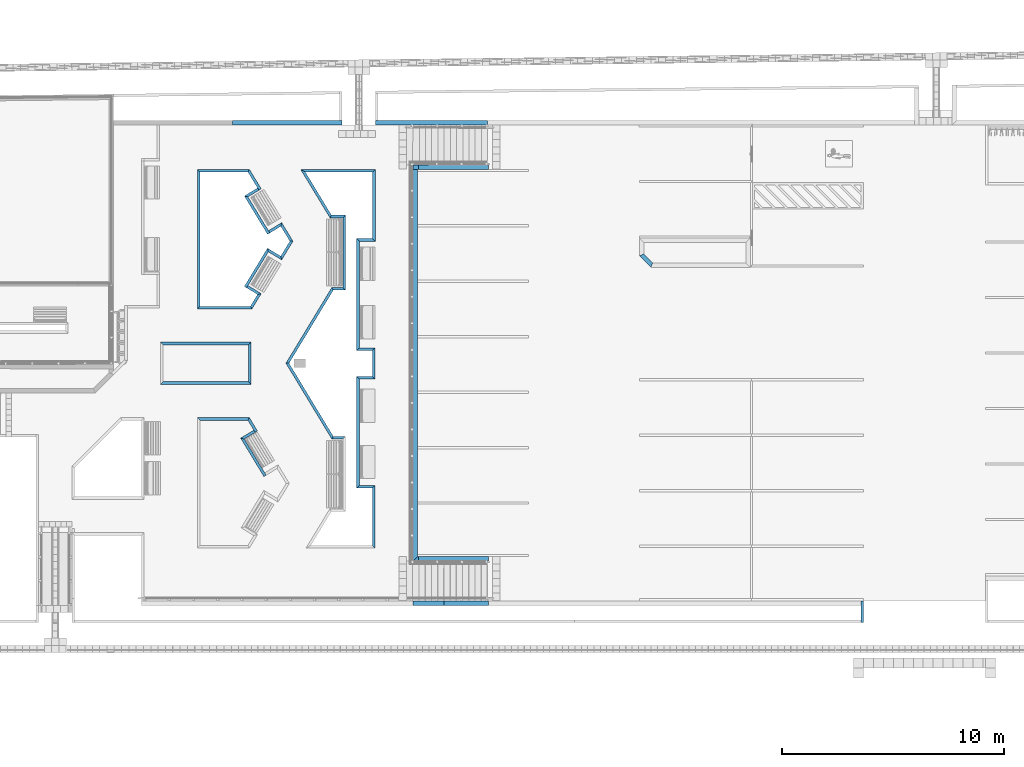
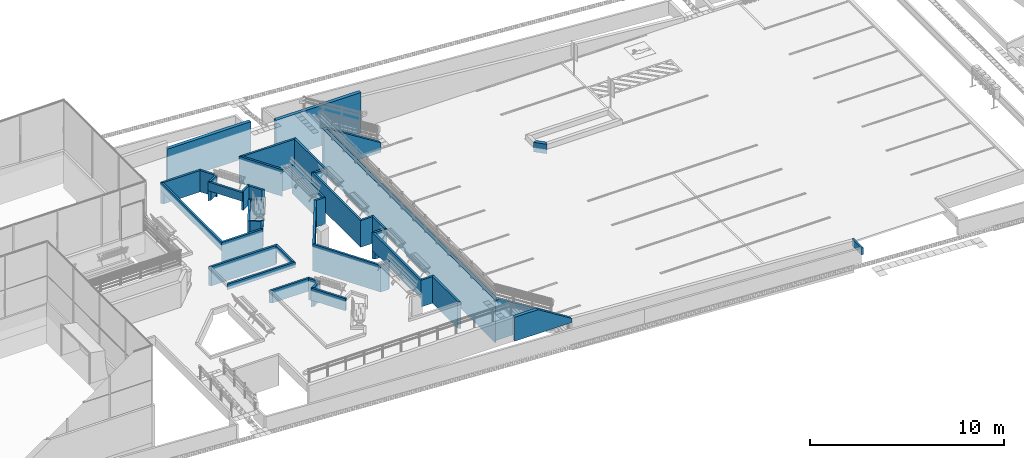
# One storey, part 19 of 237: 45 walls.
"""IFC2X3 building model written with IfcOpenShell, lengths in millimetres."""

import ifcopenshell
import ifcopenshell.guid

model = None  # the IFC model being written
_history = None  # IfcOwnerHistory: only IFC2X3 demands one
_inside = {}  # id of a spatial element -> (the spatial element, [elements in it])
_under = {}  # id of a project, library or spatial element -> (it, [spatial elements below it])
_declared = {}  # id of a project -> (the project, [libraries it declares])
_typed = {}  # id of a type object -> (the type object, [elements of that type])
_made_of = {}  # id of a material, layer set ... -> (it, [elements and type objects made of it])


def new_model(schema):
    """Start an empty IFC model of exactly this schema.

    Asked for "IFC4X3", IfcOpenShell would pick the latest addendum, in which some entities
    have other attributes; the version numbers below select the first issue.
    IFC2X3 requires an IfcOwnerHistory on every rooted entity: one is made here for all.
    """
    global model, _history
    if schema == "IFC4X3":
        model = ifcopenshell.file(schema_version=(4, 3, 0, 0))
    else:
        model = ifcopenshell.file(schema=schema)
    _inside.clear()
    _under.clear()
    _declared.clear()
    _typed.clear()
    _made_of.clear()
    _history = None
    if model.schema == "IFC2X3":
        org = make("IfcOrganization", Name="unknown")
        user = make(
            "IfcPersonAndOrganization",
            ThePerson=make("IfcPerson", FamilyName="unknown"),
            TheOrganization=org,
        )
        app = make(
            "IfcApplication",
            ApplicationDeveloper=org,
            Version="unknown",
            ApplicationFullName="unknown",
            ApplicationIdentifier="unknown",
        )
        _history = make(
            "IfcOwnerHistory",
            OwningUser=user,
            OwningApplication=app,
            ChangeAction="ADDED",
            CreationDate=0,
        )
    return model


def make(cls, **values):
    """One entity of the class cls with the attributes given. An attribute that is None is left unset."""
    return model.create_entity(
        cls, **{name: value for name, value in values.items() if value is not None}
    )


def entity(cls, *values):
    """Any entity or typed value of the class cls, its attributes in the order of the schema. None: left unset."""
    e = model.create_entity(cls)
    for i, value in enumerate(values):
        if value is not None:
            e[i] = value
    return e


def rooted(cls, **values):
    """An entity with a GlobalId (a new one), such as an element, a storey or a relation."""
    return make(cls, GlobalId=ifcopenshell.guid.new(), OwnerHistory=_history, **values)


def si_unit(unit_type, name, prefix=None):
    """IfcSIUnit, for example si_unit("LENGTHUNIT", "METRE", prefix="MILLI")."""
    return make("IfcSIUnit", UnitType=unit_type, Prefix=prefix, Name=name)


def converted_unit(unit_type, name, factor, base, dimensions=None, offset=None):
    """IfcConversionBasedUnit, such as the inch: factor (a typed value) times the base unit."""
    return make(
        "IfcConversionBasedUnit"
        if offset is None
        else "IfcConversionBasedUnitWithOffset",
        ConversionOffset=offset,
        Dimensions=None
        if dimensions is None
        else entity("IfcDimensionalExponents", *dimensions),
        UnitType=unit_type,
        Name=name,
        ConversionFactor=make(
            "IfcMeasureWithUnit", ValueComponent=factor, UnitComponent=base
        ),
    )


def derived_unit(unit_type, elements):
    """IfcDerivedUnit: a product of units, each with its exponent."""
    return make(
        "IfcDerivedUnit",
        Elements=[
            make("IfcDerivedUnitElement", Unit=unit, Exponent=power)
            for unit, power in elements
        ],
        UnitType=unit_type,
    )


def money_unit(currency):
    """IfcMonetaryUnit."""
    return make("IfcMonetaryUnit", Currency=currency)


def assignment(units):
    """IfcUnitAssignment: the units of a project."""
    return None if units is None else make("IfcUnitAssignment", Units=units)


def point(xyz):
    """IfcCartesianPoint."""
    return None if xyz is None else make("IfcCartesianPoint", Coordinates=xyz)


def direction(xyz):
    """IfcDirection."""
    return None if xyz is None else make("IfcDirection", DirectionRatios=xyz)


def frame(location, z_axis=None, x_axis=None):
    """IfcAxis2Placement3D, a coordinate frame: its origin and axes. An axis left out is left unset."""
    return make(
        "IfcAxis2Placement3D",
        Location=point(location),
        Axis=direction(z_axis),
        RefDirection=direction(x_axis),
    )


def origin_with_axes():
    """The frame at (0, 0, 0) with the z axis (0, 0, 1) and the x axis (1, 0, 0) written out."""
    return frame((0.0, 0.0, 0.0), z_axis=(0.0, 0.0, 1.0), x_axis=(1.0, 0.0, 0.0))


def place(relative_to, where):
    """IfcLocalPlacement: puts the frame where relative to a parent placement (None: the world)."""
    return make(
        "IfcLocalPlacement", PlacementRelTo=relative_to, RelativePlacement=where
    )


def context(
    kind, dimensions, precision=None, world=None, true_north=None, identifier=None
):
    """IfcGeometricRepresentationContext, for example the 3D "Model" context."""
    return make(
        "IfcGeometricRepresentationContext",
        ContextIdentifier=identifier,
        ContextType=kind,
        CoordinateSpaceDimension=dimensions,
        Precision=precision,
        WorldCoordinateSystem=world,
        TrueNorth=true_north,
    )


def subcontext(parent, identifier, kind, view, scale=None):
    """IfcGeometricRepresentationSubContext, for example "Body" below "Model"."""
    return make(
        "IfcGeometricRepresentationSubContext",
        ContextIdentifier=identifier,
        ContextType=kind,
        ParentContext=parent,
        TargetScale=scale,
        TargetView=view,
    )


def project(units=None, contexts=None):
    """IfcProject with its units and contexts."""
    return rooted(
        "IfcProject",
        Name="project",
        RepresentationContexts=contexts,
        UnitsInContext=assignment(units),
    )


def spatial(cls, under=None, at=None, **own):
    """A site, building, storey or space (cls), placed at a placement, below another one or the project."""
    s = rooted(cls, ObjectPlacement=at, **own)
    if under is not None:
        _under.setdefault(under.id(), (under, []))[1].append(s)
    return s


def polyline(points):
    """IfcPolyline through the points."""
    return make("IfcPolyline", Points=[point(p) for p in points])


def outline(outer, holes=None, kind="AREA"):
    """IfcArbitraryClosedProfileDef: a profile drawn as a closed curve; with holes, ...WithVoids."""
    if holes is None:
        return make("IfcArbitraryClosedProfileDef", ProfileType=kind, OuterCurve=outer)
    return make(
        "IfcArbitraryProfileDefWithVoids",
        ProfileType=kind,
        OuterCurve=outer,
        InnerCurves=holes,
    )


def extrude(swept, where, along, depth):
    """IfcExtrudedAreaSolid: the profile swept, set in the frame where, extruded along a direction by depth."""
    return make(
        "IfcExtrudedAreaSolid",
        SweptArea=swept,
        Position=where,
        ExtrudedDirection=direction(along),
        Depth=depth,
    )


def clip(a, b, op="DIFFERENCE"):
    """IfcBooleanClippingResult: the solid a cut by the half space b."""
    return make(
        "IfcBooleanClippingResult", Operator=op, FirstOperand=a, SecondOperand=b
    )


def halfspace(plane, agree):
    """IfcHalfSpaceSolid: all space on one side of the plane z = 0 of the frame plane."""
    return make(
        "IfcHalfSpaceSolid",
        BaseSurface=make("IfcPlane", Position=plane),
        AgreementFlag=agree,
    )


def bounded_halfspace(plane, agree, where, boundary):
    """IfcPolygonalBoundedHalfSpace: a half space limited to a polygon's prism."""
    return make(
        "IfcPolygonalBoundedHalfSpace",
        BaseSurface=make("IfcPlane", Position=plane),
        AgreementFlag=agree,
        Position=where,
        PolygonalBoundary=boundary,
    )


def shape(context_of_items, identifier, shape_type, items):
    """IfcShapeRepresentation: the items that make up one representation, for example the "Body"."""
    return make(
        "IfcShapeRepresentation",
        ContextOfItems=context_of_items,
        RepresentationIdentifier=identifier,
        RepresentationType=shape_type,
        Items=items,
    )


def material(Name=None, Category=None):
    """IfcMaterial."""
    return make("IfcMaterial", Name=Name, Category=Category)


def layer(
    of_material, thickness, ventilated=None, Name=None, Category=None, Priority=None
):
    """IfcMaterialLayer: one layer of a wall or slab, of a material (None: an air gap)."""
    return make(
        "IfcMaterialLayer",
        Material=of_material,
        LayerThickness=thickness,
        IsVentilated=ventilated,
        Name=Name,
        Category=Category,
        Priority=Priority,
    )


def layer_set(layers, Name=None):
    """IfcMaterialLayerSet."""
    return make("IfcMaterialLayerSet", MaterialLayers=layers, LayerSetName=Name)


def layer_usage(for_layer_set, set_direction, sense, offset, extent=None):
    """IfcMaterialLayerSetUsage: how a layer set lies in its element."""
    return make(
        "IfcMaterialLayerSetUsage",
        ForLayerSet=for_layer_set,
        LayerSetDirection=set_direction,
        DirectionSense=sense,
        OffsetFromReferenceLine=offset,
        ReferenceExtent=extent,
    )


def made_of(thing, what):
    """Note that an element or type object is made of a material, layer set ...; save() writes the relation."""
    if what is not None:
        _made_of.setdefault(what.id(), (what, []))[1].append(thing)
    return thing


def type_object(cls, material=None, **own):
    """A type object (cls), such as IfcWallType, which elements share."""
    return made_of(rooted(cls, **own), material)


def element(
    cls,
    number,
    at=None,
    inside=None,
    cuts=None,
    type_object=None,
    material=None,
    context=None,
    identifier="Body",
    shape_type=None,
    held_by="IfcProductDefinitionShape",
    body=None,
    shapes=None,
    **own,
):
    """One element of the class cls, such as IfcWall. Its Tag is "e" and its number.

    at: its placement. inside: the storey or other place that contains it. cuts: it is an
    opening in that element (IfcRelVoidsElement). A single representation is given by context,
    identifier, shape_type and body (its items); several are given by shapes. held_by: the class
    of the entity that holds the representations. save() writes the other relations.
    """
    e = rooted(cls, Tag="e%d" % number, ObjectPlacement=at, **own)
    if body is not None:
        shapes = [shape(context, identifier, shape_type, body)]
    if shapes is not None:
        e.Representation = make(held_by, Representations=shapes)
    if inside is not None:
        _inside.setdefault(inside.id(), (inside, []))[1].append(e)
    if cuts is not None:
        rooted(
            "IfcRelVoidsElement", RelatingBuildingElement=cuts, RelatedOpeningElement=e
        )
    if type_object is not None:
        _typed.setdefault(type_object.id(), (type_object, []))[1].append(e)
    return made_of(e, material)


def aggregate(whole, parts):
    """IfcRelAggregates: a whole, such as a stair, and the parts it consists of."""
    return rooted("IfcRelAggregates", RelatingObject=whole, RelatedObjects=parts)


def save(model, path):
    """Write the relations noted so far, then the file.

    IfcRelAggregates (storeys below a building ...), IfcRelContainedInSpatialStructure (elements
    in a storey), IfcRelDefinesByType, IfcRelAssociatesMaterial and IfcRelDeclares: one each for
    every whole, place, type object, material and project.
    """
    for whole, parts in _under.values():
        aggregate(whole, parts)
    for where, things in _inside.values():
        rooted(
            "IfcRelContainedInSpatialStructure",
            RelatedElements=things,
            RelatingStructure=where,
        )
    for kind, things in _typed.values():
        rooted("IfcRelDefinesByType", RelatedObjects=things, RelatingType=kind)
    for what, things in _made_of.values():
        rooted("IfcRelAssociatesMaterial", RelatedObjects=things, RelatingMaterial=what)
    for by, libraries in _declared.values():
        rooted("IfcRelDeclares", RelatingContext=by, RelatedDefinitions=libraries)
    model.write(path)


model = new_model("IFC2X3")

# Units and contexts
model_context = context("Model", 3, precision=0.01, world=origin_with_axes(), true_north=direction((0.0, 1.0)))
body_context = subcontext(model_context, "Body", "Model", "MODEL_VIEW")
ifc_project = project(units=[si_unit("LENGTHUNIT", "METRE", prefix="MILLI"), si_unit("AREAUNIT", "SQUARE_METRE"), si_unit("VOLUMEUNIT", "CUBIC_METRE"), converted_unit("PLANEANGLEUNIT", "DEGREE", entity("IfcPlaneAngleMeasure", 0.0174532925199), si_unit("PLANEANGLEUNIT", "RADIAN"), dimensions=[0, 0, 0, 0, 0, 0, 0]), money_unit("USD"), converted_unit("TIMEUNIT", "Year", entity("IfcTimeMeasure", 31556926.0), si_unit("TIMEUNIT", "SECOND"), dimensions=[0, 0, 1, 0, 0, 0, 0]), si_unit("MASSUNIT", "GRAM", prefix="KILO"), si_unit("THERMODYNAMICTEMPERATUREUNIT", "DEGREE_CELSIUS"), si_unit("LUMINOUSINTENSITYUNIT", "LUMEN"), si_unit("ENERGYUNIT", "JOULE", prefix="MEGA"), derived_unit("THERMALCONDUCTANCEUNIT", [(si_unit("POWERUNIT", "WATT"), 1), (si_unit("LENGTHUNIT", "METRE"), -1), (si_unit("THERMODYNAMICTEMPERATUREUNIT", "KELVIN"), -1)]), derived_unit("SPECIFICHEATCAPACITYUNIT", [(si_unit("ENERGYUNIT", "JOULE"), 1), (si_unit("MASSUNIT", "GRAM", prefix="KILO"), -1), (si_unit("THERMODYNAMICTEMPERATUREUNIT", "KELVIN"), -1)]), derived_unit("MASSDENSITYUNIT", [(si_unit("MASSUNIT", "GRAM", prefix="KILO"), 1), (si_unit("VOLUMEUNIT", "CUBIC_METRE"), -1)])], contexts=[model_context])

# Site, building, storey
site_placement = place(None, origin_with_axes())
site = spatial("IfcSite", under=ifc_project, at=site_placement, Name="Local", CompositionType="ELEMENT")
building_placement = place(site_placement, origin_with_axes())
building = spatial("IfcBuilding", under=site, at=building_placement, Name="Construção", CompositionType="ELEMENT")
storey_placement = place(building_placement, origin_with_axes())
storey = spatial("IfcBuildingStorey", under=building, at=storey_placement, Name="Pavimento Térreo", CompositionType="ELEMENT", Elevation=0.0)

# Walls
ifc_material = material(Name="Bloco de Concreto - Estrutural")
ifc_layer_1 = layer(ifc_material, 120.0, ventilated="UNKNOWN")
ifc_layer_set_1 = layer_set([ifc_layer_1], Name="Bloco de Concreto - Estrutural 120")
ifc_layer_usage_1 = layer_usage(ifc_layer_set_1, "AXIS2", "NEGATIVE", 0.0)
wall_type_1 = type_object("IfcWallType", Name="Bloco de Concreto - Estrutural 120", PredefinedType="NOTDEFINED")
wall_1_placement = place(storey_placement, frame((94852.3907283, 29208.0562672, -6187.39424695), z_axis=(0.0, 0.0, 1.0), x_axis=(-0.518296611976, -0.855200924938, 0.0)))
element("IfcWallStandardCase", 1, at=wall_1_placement, inside=storey, type_object=wall_type_1, material=ifc_layer_usage_1, Name="Parede-081", context=body_context, shape_type="SweptSolid", body=[
    extrude(outline(polyline([(72.7262934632, -120.0), (864.691435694, -120.0), (984.691435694, 0.0), (0.0, 0.0), (72.7262934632, -120.0)])), origin_with_axes(), (0.0, 0.0, 1.0), 1345.0864139),
])
ifc_layer_usage_2 = layer_usage(ifc_layer_set_1, "AXIS2", "NEGATIVE", 0.0)
wall_2_placement = place(storey_placement, frame((92956.0936815, 22756.5427792, -5181.0), z_axis=(0.0, 0.0, 1.0), x_axis=(-1.0, 0.0, 0.0)))
element("IfcWallStandardCase", 2, at=wall_2_placement, inside=storey, type_object=wall_type_1, material=ifc_layer_usage_2, Name="Parede-087", context=body_context, shape_type="SweptSolid", body=[
    extrude(outline(polyline([(120.0, -120.0), (3953.20247605, -120.0), (4073.20247605, 0.0), (0.0, 0.0), (120.0, -120.0)])), origin_with_axes(), (0.0, 0.0, 1.0), 340.0),
])
ifc_layer_usage_3 = layer_usage(ifc_layer_set_1, "AXIS2", "NEGATIVE", 0.0)
wall_3_placement = place(storey_placement, frame((92823.3112806, 27210.6080946, -6038.27348767), z_axis=(0.0, 0.0, 1.0), x_axis=(0.855200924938, -0.518296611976, 0.0)))
element("IfcWallStandardCase", 3, at=wall_3_placement, inside=storey, type_object=wall_type_1, material=ifc_layer_usage_3, Name="Parede-085", context=body_context, shape_type="SweptSolid", body=[
    extrude(outline(polyline([(0.0, -120.0), (580.0, -120.0), (700.0, 0.0), (0.0, 0.0), (0.0, -120.0)])), origin_with_axes(), (0.0, 0.0, 1.0), 1197.27348767),
])
ifc_layer_usage_4 = layer_usage(ifc_layer_set_1, "AXIS2", "NEGATIVE", 0.0)
wall_4_placement = place(storey_placement, frame((92959.4676312, 21136.5610382, -5641.13192024), z_axis=(0.0, 0.0, 1.0), x_axis=(-1.0, 0.0, 0.0)))
element("IfcWallStandardCase", 4, at=wall_4_placement, inside=storey, type_object=wall_type_1, material=ifc_layer_usage_4, Name="Parede-081", context=body_context, shape_type="SweptSolid", body=[
    extrude(outline(polyline([(72.7262934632, -120.0), (2422.70385231, -120.0), (2302.70431037, 0.0), (140.317902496, 0.0), (72.7262934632, -120.0)])), origin_with_axes(), (0.0, 0.0, 1.0), 798.824087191),
])
ifc_layer_usage_5 = layer_usage(ifc_layer_set_1, "AXIS2", "NEGATIVE", 0.0)
wall_5_placement = place(storey_placement, frame((97845.4255213, 23118.5676803, -5971.10117502), z_axis=(0.0, 0.0, 1.0), x_axis=(0.0, -1.0, 0.0)))
element("IfcWallStandardCase", 5, at=wall_5_placement, inside=storey, type_object=wall_type_1, material=ifc_layer_usage_5, Name="Parede-081", context=body_context, shape_type="SweptSolid", body=[
    extrude(outline(polyline([(0.0, -120.0), (5036.17018932, -120.0), (4916.17018932, 0.0), (120.0, 0.0), (0.0, -120.0)])), origin_with_axes(), (0.0, 0.0, 1.0), 1130.98041574),
])
ifc_layer_usage_6 = layer_usage(ifc_layer_set_1, "AXIS2", "NEGATIVE", 0.0)
wall_6_placement = place(storey_placement, frame((92959.4676312, 32331.4214332, -6187.39424695), z_axis=(0.0, 0.0, 1.0), x_axis=(0.518296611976, -0.855200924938, 0.0)))
element("IfcWallStandardCase", 6, at=wall_6_placement, inside=storey, type_object=wall_type_1, material=ifc_layer_usage_6, Name="Parede-081", context=body_context, shape_type="SweptSolid", body=[
    extrude(outline(polyline([(-72.7262934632, -120.0), (892.507136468, -120.0), (892.507136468, 0.0), (-140.317902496, 0.0), (-72.7262934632, -120.0)])), origin_with_axes(), (0.0, 0.0, 1.0), 1345.0864139),
])
ifc_layer_usage_7 = layer_usage(ifc_layer_set_1, "AXIS2", "NEGATIVE", 0.0)
wall_7_placement = place(storey_placement, frame((98545.4255213, 18202.397491, -6517.39424695), z_axis=(0.0, 0.0, 1.0), x_axis=(0.0, -1.0, 0.0)))
element("IfcWallStandardCase", 7, at=wall_7_placement, inside=storey, type_object=wall_type_1, material=ifc_layer_usage_7, Name="Parede-083", context=body_context, shape_type="SweptSolid", body=[
    extrude(outline(polyline([(120.0, -120.0), (2704.80480075, -120.0), (2824.80480075, 0.0), (0.0, 0.0), (120.0, -120.0)])), origin_with_axes(), (0.0, 0.0, 1.0), 1677.27348767),
])
ifc_layer_usage_8 = layer_usage(ifc_layer_set_1, "AXIS2", "NEGATIVE", 0.0)
wall_8_placement = place(storey_placement, frame((97845.4255213, 18202.397491, -6517.39424695), z_axis=(0.0, 0.0, 1.0), x_axis=(1.0, 0.0, 0.0)))
element("IfcWallStandardCase", 8, at=wall_8_placement, inside=storey, type_object=wall_type_1, material=ifc_layer_usage_8, Name="Parede-082", context=body_context, shape_type="SweptSolid", body=[
    extrude(outline(polyline([(-120.0, -120.0), (580.0, -120.0), (700.0, 0.0), (0.0, 0.0), (-120.0, -120.0)])), origin_with_axes(), (0.0, 0.0, 1.0), 1677.27348767),
])
ifc_layer_usage_9 = layer_usage(ifc_layer_set_1, "AXIS2", "NEGATIVE", 0.0)
wall_9_placement = place(storey_placement, frame((93421.951928, 26847.8004662, -6187.39424695), z_axis=(0.0, 0.0, 1.0), x_axis=(-0.518296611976, -0.855200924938, 0.0)))
element("IfcWallStandardCase", 9, at=wall_9_placement, inside=storey, type_object=wall_type_1, material=ifc_layer_usage_9, Name="Parede-081", context=body_context, shape_type="SweptSolid", body=[
    extrude(outline(polyline([(120.0, -120.0), (741.908569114, -120.0), (809.500178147, 0.0), (0.0, 0.0), (120.0, -120.0)])), origin_with_axes(), (0.0, 0.0, 1.0), 1345.0864139),
])
ifc_layer_usage_10 = layer_usage(ifc_layer_set_1, "AXIS2", "NEGATIVE", 0.0)
wall_10_placement = place(storey_placement, frame((97845.4255213, 23118.5676803, -6517.39424695), z_axis=(0.0, 0.0, 1.0), x_axis=(1.0, 0.0, 0.0)))
element("IfcWallStandardCase", 10, at=wall_10_placement, inside=storey, type_object=wall_type_1, material=ifc_layer_usage_10, Name="Parede-082", context=body_context, shape_type="SweptSolid", body=[
    extrude(outline(polyline([(0.0, -120.0), (700.0, -120.0), (580.0, 0.0), (-120.0, 0.0), (0.0, -120.0)])), origin_with_axes(), (0.0, 0.0, 1.0), 1677.27348767),
])
ifc_layer_usage_11 = layer_usage(ifc_layer_set_1, "AXIS2", "NEGATIVE", 0.0)
wall_11_placement = place(storey_placement, frame((92593.024435, 20394.4434864, -5606.99141897), z_axis=(0.0, 0.0, 1.0), x_axis=(0.518296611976, -0.855200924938, 0.0)))
element("IfcWallStandardCase", 11, at=wall_11_placement, inside=storey, type_object=wall_type_1, material=ifc_layer_usage_11, Name="Parede-081", context=body_context, shape_type="SweptSolid", body=[
    extrude(outline(polyline([(0.0, -120.0), (2024.59585967, -120.0), (2024.59585967, 0.0), (120.0, 0.0), (0.0, -120.0)])), origin_with_axes(), (0.0, 0.0, 1.0), 764.683585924),
])
ifc_layer_usage_12 = layer_usage(ifc_layer_set_1, "AXIS2", "NEGATIVE", 0.0)
wall_12_placement = place(storey_placement, frame((93805.5834393, 28831.37898, -6038.27348767), z_axis=(0.0, 0.0, 1.0), x_axis=(0.855200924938, -0.518296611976, 0.0)))
element("IfcWallStandardCase", 12, at=wall_12_placement, inside=storey, type_object=wall_type_1, material=ifc_layer_usage_12, Name="Parede-085", context=body_context, shape_type="SweptSolid", body=[
    extrude(outline(polyline([(0.0, -120.0), (700.0, -120.0), (580.0, 0.0), (-120.0, 0.0), (0.0, -120.0)])), origin_with_axes(), (0.0, 0.0, 1.0), 1197.27348767),
])
ifc_layer_usage_13 = layer_usage(ifc_layer_set_1, "AXIS2", "NEGATIVE", 0.0)
wall_13_placement = place(storey_placement, frame((92959.4676312, 32331.4214332, -6187.39424695), z_axis=(0.0, 0.0, 1.0), x_axis=(-1.0, 0.0, 0.0)))
element("IfcWallStandardCase", 13, at=wall_13_placement, inside=storey, type_object=wall_type_1, material=ifc_layer_usage_13, Name="Parede-081", context=body_context, shape_type="SweptSolid", body=[
    extrude(outline(polyline([(72.7262934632, -120.0), (2422.70204263, -120.0), (2302.70246977, 0.0), (140.317902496, 0.0), (72.7262934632, -120.0)])), origin_with_axes(), (0.0, 0.0, 1.0), 1345.0864139),
])
ifc_layer_usage_14 = layer_usage(ifc_layer_set_1, "AXIS2", "NEGATIVE", 0.0)
wall_14_placement = place(storey_placement, frame((98545.4255213, 24403.3453964, -6517.39424695), z_axis=(0.0, 0.0, 1.0), x_axis=(0.0, -1.0, 0.0)))
element("IfcWallStandardCase", 14, at=wall_14_placement, inside=storey, type_object=wall_type_1, material=ifc_layer_usage_14, Name="Parede-100", context=body_context, shape_type="SweptSolid", body=[
    extrude(outline(polyline([(120.0, -120.0), (1284.77771604, -120.0), (1404.77771604, 0.0), (0.0, 0.0), (120.0, -120.0)])), origin_with_axes(), (0.0, 0.0, 1.0), 1677.27348767),
])
ifc_layer_usage_15 = layer_usage(ifc_layer_set_1, "AXIS2", "NEGATIVE", 0.0)
wall_15_placement = place(storey_placement, frame((97842.9647938, 24403.3453964, -6517.39424695), z_axis=(0.0, 0.0, 1.0), x_axis=(1.0, 0.0, 0.0)))
element("IfcWallStandardCase", 15, at=wall_15_placement, inside=storey, type_object=wall_type_1, material=ifc_layer_usage_15, Name="Parede-099", context=body_context, shape_type="SweptSolid", body=[
    extrude(outline(polyline([(-120.061479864, -120.0), (582.460727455, -120.0), (702.460727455, 0.0), (0.0, 0.0), (-120.061479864, -120.0)])), origin_with_axes(), (0.0, 0.0, 1.0), 1677.27348767),
])
ifc_layer_usage_16 = layer_usage(ifc_layer_set_1, "AXIS2", "NEGATIVE", 0.0)
wall_16_placement = place(storey_placement, frame((97845.4223733, 29201.4214342, -6517.39424695), z_axis=(0.0, 0.0, 1.0), x_axis=(-0.000512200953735, -0.999999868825, 0.0)))
element("IfcWallStandardCase", 16, at=wall_16_placement, inside=storey, type_object=wall_type_1, material=ifc_layer_usage_16, Name="Parede-098", context=body_context, shape_type="SweptSolid", body=[
    extrude(outline(polyline([(-119.938551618, -120.0), (4918.13814712, -120.0), (4798.07666726, 0.0), (0.0, 0.0), (-119.938551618, -120.0)])), origin_with_axes(), (0.0, 0.0, 1.0), 1677.27348767),
])
ifc_layer_usage_17 = layer_usage(ifc_layer_set_1, "AXIS2", "NEGATIVE", 0.0)
wall_17_placement = place(storey_placement, frame((98563.7883851, 29201.4214342, -6517.39424695), z_axis=(0.0, 0.0, 1.0), x_axis=(-1.0, 0.0, 0.0)))
element("IfcWallStandardCase", 17, at=wall_17_placement, inside=storey, type_object=wall_type_1, material=ifc_layer_usage_17, Name="Parede-097", context=body_context, shape_type="SweptSolid", body=[
    extrude(outline(polyline([(120.0, -120.0), (838.304563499, -120.0), (718.366011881, 0.0), (0.0, 0.0), (120.0, -120.0)])), origin_with_axes(), (0.0, 0.0, 1.0), 1677.27348767),
])
ifc_layer_usage_18 = layer_usage(ifc_layer_set_1, "AXIS2", "NEGATIVE", 0.0)
wall_18_placement = place(storey_placement, frame((98563.7883851, 32451.4214342, -6517.39424695), z_axis=(0.0, 0.0, 1.0), x_axis=(0.0, -1.0, 0.0)))
element("IfcWallStandardCase", 18, at=wall_18_placement, inside=storey, type_object=wall_type_1, material=ifc_layer_usage_18, Name="Parede-096", context=body_context, shape_type="SweptSolid", body=[
    extrude(outline(polyline([(120.0, -120.0), (3130.0, -120.0), (3250.0, 0.0), (0.0, 0.0), (120.0, -120.0)])), origin_with_axes(), (0.0, 0.0, 1.0), 1677.27348767),
])
ifc_layer_usage_19 = layer_usage(ifc_layer_set_1, "AXIS2", "NEGATIVE", 0.0)
wall_19_placement = place(storey_placement, frame((95190.624248, 32451.4214342, -6517.39424695), z_axis=(0.0, 0.0, 1.0), x_axis=(1.0, 0.0, 0.0)))
element("IfcWallStandardCase", 19, at=wall_19_placement, inside=storey, type_object=wall_type_1, material=ifc_layer_usage_19, Name="Parede-095", context=body_context, shape_type="SweptSolid", body=[
    extrude(outline(polyline([(213.044195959, -120.0), (3253.16413714, -120.0), (3373.16413714, 0.0), (0.0, 0.0), (213.044195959, -120.0)])), origin_with_axes(), (0.0, 0.0, 1.0), 1677.27348767),
])
ifc_layer_usage_20 = layer_usage(ifc_layer_set_1, "AXIS2", "NEGATIVE", 0.0)
wall_20_placement = place(storey_placement, frame((96517.1377316, 30262.6447147, -6517.39424695), z_axis=(0.0, 0.0, 1.0), x_axis=(-0.518296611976, 0.855200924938, 0.0)))
element("IfcWallStandardCase", 20, at=wall_20_placement, inside=storey, type_object=wall_type_1, material=ifc_layer_usage_20, Name="Parede-094", context=body_context, shape_type="SweptSolid", body=[
    extrude(outline(polyline([(67.5916090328, -120.0), (2346.32712333, -120.0), (2559.37131929, 0.0), (0.0, 0.0), (67.5916090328, -120.0)])), origin_with_axes(), (0.0, 0.0, 1.0), 1677.27348767),
])
ifc_layer_usage_21 = layer_usage(ifc_layer_set_1, "AXIS2", "NEGATIVE", 0.0)
wall_21_placement = place(storey_placement, frame((97095.4255213, 30262.6447147, -6187.39424695), z_axis=(0.0, 0.0, 1.0), x_axis=(-1.0, 0.0, 0.0)))
element("IfcWallStandardCase", 21, at=wall_21_placement, inside=storey, type_object=wall_type_1, material=ifc_layer_usage_21, Name="Parede-093", context=body_context, shape_type="SweptSolid", body=[
    extrude(outline(polyline([(-120.0, -120.0), (510.696180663, -120.0), (578.287789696, 0.0), (0.0, 0.0), (-120.0, -120.0)])), origin_with_axes(), (0.0, 0.0, 1.0), 1347.27348767),
])
ifc_layer_usage_22 = layer_usage(ifc_layer_set_1, "AXIS2", "NEGATIVE", 0.0)
wall_22_placement = place(storey_placement, frame((97095.4255213, 27122.6770916, -6517.39424695), z_axis=(0.0, 0.0, 1.0), x_axis=(0.0, 1.0, 0.0)))
element("IfcWallStandardCase", 22, at=wall_22_placement, inside=storey, type_object=wall_type_1, material=ifc_layer_usage_22, Name="Parede-092", context=body_context, shape_type="SweptSolid", body=[
    extrude(outline(polyline([(-120.0, -120.0), (3259.9676231, -120.0), (3139.9676231, 0.0), (0.0, 0.0), (-120.0, -120.0)])), origin_with_axes(), (0.0, 0.0, 1.0), 1677.27348767),
])
ifc_layer_usage_23 = layer_usage(ifc_layer_set_1, "AXIS2", "NEGATIVE", 0.0)
wall_23_placement = place(storey_placement, frame((96601.9654518, 27122.6770916, -6517.39424695), z_axis=(0.0, 0.0, 1.0), x_axis=(1.0, 0.0, 0.0)))
element("IfcWallStandardCase", 23, at=wall_23_placement, inside=storey, type_object=wall_type_1, material=ifc_layer_usage_23, Name="Parede-091", context=body_context, shape_type="SweptSolid", body=[
    extrude(outline(polyline([(67.5916090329, -120.0), (613.460069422, -120.0), (493.460069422, 0.0), (0.0, 0.0), (67.5916090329, -120.0)])), origin_with_axes(), (0.0, 0.0, 1.0), 1677.27348767),
])
ifc_layer_usage_24 = layer_usage(ifc_layer_set_1, "AXIS2", "NEGATIVE", 0.0)
wall_24_placement = place(storey_placement, frame((94532.1767133, 23707.4796877, -6517.39424695), z_axis=(0.0, 0.0, 1.0), x_axis=(0.518296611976, 0.855200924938, 0.0)))
element("IfcWallStandardCase", 24, at=wall_24_placement, inside=storey, type_object=wall_type_1, material=ifc_layer_usage_24, Name="Parede-090", context=body_context, shape_type="SweptSolid", body=[
    extrude(outline(polyline([(72.6761527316, -120.0), (3925.85286033, -120.0), (3993.44446936, 0.0), (0.0, 0.0), (72.6761527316, -120.0)])), origin_with_axes(), (0.0, 0.0, 1.0), 1677.27348767),
])
ifc_layer_usage_25 = layer_usage(ifc_layer_set_1, "AXIS2", "NEGATIVE", 0.0)
wall_25_placement = place(storey_placement, frame((96601.9654518, 20287.5674784, -6517.39424695), z_axis=(0.0, 0.0, 1.0), x_axis=(-0.517773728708, 0.85551760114, 0.0)))
element("IfcWallStandardCase", 25, at=wall_25_placement, inside=storey, type_object=wall_type_1, material=ifc_layer_usage_25, Name="Parede-089", context=body_context, shape_type="SweptSolid", body=[
    extrude(outline(polyline([(67.6399322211, -120.0), (3924.80116955, -120.0), (3997.47732228, 0.0), (0.0, 0.0), (67.6399322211, -120.0)])), origin_with_axes(), (0.0, 0.0, 1.0), 1677.27348767),
])
ifc_layer_usage_26 = layer_usage(ifc_layer_set_1, "AXIS2", "NEGATIVE", 0.0)
wall_26_placement = place(storey_placement, frame((97095.4255213, 20287.5674784, -6517.39424695), z_axis=(0.0, 0.0, 1.0), x_axis=(-1.0, 0.0, 0.0)))
element("IfcWallStandardCase", 26, at=wall_26_placement, inside=storey, type_object=wall_type_1, material=ifc_layer_usage_26, Name="Parede-088", context=body_context, shape_type="SweptSolid", body=[
    extrude(outline(polyline([(-120.0, -120.0), (425.820137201, -120.0), (493.460069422, 0.0), (0.0, 0.0), (-120.0, -120.0)])), origin_with_axes(), (0.0, 0.0, 1.0), 1677.27348767),
])
ifc_layer_usage_27 = layer_usage(ifc_layer_set_1, "AXIS2", "NEGATIVE", 0.0)
wall_27_placement = place(storey_placement, frame((92956.0936815, 24655.5106581, -5180.04539951), z_axis=(0.0, 0.0, 1.0), x_axis=(0.0, -1.0, 0.0)))
element("IfcWallStandardCase", 27, at=wall_27_placement, inside=storey, type_object=wall_type_1, material=ifc_layer_usage_27, Name="Parede-082", context=body_context, shape_type="SweptSolid", body=[
    extrude(outline(polyline([(120.0, -120.0), (1778.96787896, -120.0), (1898.96787896, 0.0), (0.0, 0.0), (120.0, -120.0)])), origin_with_axes(), (0.0, 0.0, 1.0), 340.0),
])
ifc_layer_usage_28 = layer_usage(ifc_layer_set_1, "AXIS2", "NEGATIVE", 0.0)
wall_28_placement = place(storey_placement, frame((93002.3907283, 26155.5151651, -6519.58132072), z_axis=(0.0, 0.0, 1.0), x_axis=(-1.0, 0.0, 0.0)))
element("IfcWallStandardCase", 28, at=wall_28_placement, inside=storey, type_object=wall_type_1, material=ifc_layer_usage_28, Name="Parede-081", context=body_context, shape_type="SweptSolid", body=[
    extrude(outline(polyline([(67.5916090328, -120.0), (2345.64712286, -120.0), (2465.64755, 0.0), (0.0, 0.0), (67.5916090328, -120.0)])), origin_with_axes(), (0.0, 0.0, 1.0), 1677.27348767),
])
ifc_layer_usage_29 = layer_usage(ifc_layer_set_1, "AXIS2", "NEGATIVE", 0.0)
wall_29_placement = place(storey_placement, frame((92959.4676312, 21136.5610382, -6187.39424695), z_axis=(0.0, 0.0, 1.0), x_axis=(0.518296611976, -0.855200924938, 0.0)))
element("IfcWallStandardCase", 29, at=wall_29_placement, inside=storey, type_object=wall_type_1, material=ifc_layer_usage_29, Name="Parede-081", context=body_context, shape_type="SweptSolid", body=[
    extrude(outline(polyline([(-72.7262934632, -120.0), (564.733349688, -120.0), (564.733349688, 0.0), (-140.317902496, 0.0), (-72.7262934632, -120.0)])), origin_with_axes(), (0.0, 0.0, 1.0), 1345.0864139),
])
ifc_layer_usage_30 = layer_usage(ifc_layer_set_1, "AXIS2", "NEGATIVE", 0.0)
wall_30_placement = place(storey_placement, frame((92593.024435, 20394.4434864, -6038.27348767), z_axis=(0.0, 0.0, 1.0), x_axis=(0.855200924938, 0.518296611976, 0.0)))
element("IfcWallStandardCase", 30, at=wall_30_placement, inside=storey, type_object=wall_type_1, material=ifc_layer_usage_30, Name="Parede-085", context=body_context, shape_type="SweptSolid", body=[
    extrude(outline(polyline([(0.0, -120.0), (578.019573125, -120.0), (578.019573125, 0.0), (-120.0, 0.0), (0.0, -120.0)])), origin_with_axes(), (0.0, 0.0, 1.0), 1197.27348767),
])
ifc_layer_usage_31 = layer_usage(ifc_layer_set_1, "AXIS2", "NEGATIVE", 0.0)
wall_31_placement = place(storey_placement, frame((120567.280736, 12994.3208657, -7519.9184988), z_axis=(0.0, 0.0, 1.0), x_axis=(0.0, -1.0, 0.0)))
element("IfcWallStandardCase", 31, at=wall_31_placement, inside=storey, type_object=wall_type_1, material=ifc_layer_usage_31, Name="Parede-082", context=body_context, shape_type="SweptSolid", body=[
    extrude(outline(polyline([(0.0, -120.0), (971.695197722, -120.0), (971.695197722, 0.0), (0.0, 0.0), (0.0, -120.0)])), origin_with_axes(), (0.0, 0.0, 1.0), 435.644889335),
])
ifc_layer_usage_32 = layer_usage(ifc_layer_set_1, "AXIS2", "NEGATIVE", 0.0)
wall_32_placement = place(storey_placement, frame((92761.2148153, 31307.9649872, -5391.07957393), z_axis=(0.0, 0.0, 1.0), x_axis=(0.518296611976, -0.855200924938, 0.0)))
element("IfcWallStandardCase", 32, at=wall_32_placement, inside=storey, type_object=wall_type_1, material=ifc_layer_usage_32, Name="Parede-081", context=body_context, shape_type="SweptSolid", body=[
    extrude(outline(polyline([(0.0, -120.0), (2019.69327039, -120.0), (2019.69327039, 0.0), (120.0, 0.0), (0.0, -120.0)])), origin_with_axes(), (0.0, 0.0, 1.0), 548.771740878),
])
ifc_layer_usage_33 = layer_usage(ifc_layer_set_1, "AXIS2", "NEGATIVE", 0.0)
wall_33_placement = place(storey_placement, frame((92761.2148153, 31307.9649872, -6038.27348767), z_axis=(0.0, 0.0, 1.0), x_axis=(0.855200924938, 0.518296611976, 0.0)))
element("IfcWallStandardCase", 33, at=wall_33_placement, inside=storey, type_object=wall_type_1, material=ifc_layer_usage_33, Name="Parede-085", context=body_context, shape_type="SweptSolid", body=[
    extrude(outline(polyline([(0.0, -120.0), (580.0, -120.0), (580.0, 0.0), (-120.0, 0.0), (0.0, -120.0)])), origin_with_axes(), (0.0, 0.0, 1.0), 1197.27348767),
])
ifc_layer_usage_34 = layer_usage(ifc_layer_set_1, "AXIS2", "NEGATIVE", 0.0)
wall_34_placement = place(storey_placement, frame((94344.4600486, 30046.1531736, -6187.39424695), z_axis=(0.0, 0.0, 1.0), x_axis=(0.518296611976, -0.855200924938, 0.0)))
element("IfcWallStandardCase", 34, at=wall_34_placement, inside=storey, type_object=wall_type_1, material=ifc_layer_usage_34, Name="Parede-081", context=body_context, shape_type="SweptSolid", body=[
    extrude(outline(polyline([(120.0, -120.0), (907.273706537, -120.0), (980.0, 0.0), (0.0, 0.0), (120.0, -120.0)])), origin_with_axes(), (0.0, 0.0, 1.0), 1345.0864139),
])
ifc_layer_usage_35 = layer_usage(ifc_layer_set_1, "AXIS2", "NEGATIVE", 0.0)
wall_35_placement = place(storey_placement, frame((93745.8194011, 29683.3455452, -6039.58132072), z_axis=(0.0, 0.0, 1.0), x_axis=(0.855200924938, 0.518296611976, 0.0)))
element("IfcWallStandardCase", 35, at=wall_35_placement, inside=storey, type_object=wall_type_1, material=ifc_layer_usage_35, Name="Parede-085", context=body_context, shape_type="SweptSolid", body=[
    extrude(outline(polyline([(0.0, -120.0), (580.0, -120.0), (700.0, 0.0), (0.0, 0.0), (0.0, -120.0)])), origin_with_axes(), (0.0, 0.0, 1.0), 1197.27348767),
])
ifc_layer_usage_36 = layer_usage(ifc_layer_set_1, "AXIS2", "NEGATIVE", 0.0)
wall_36_placement = place(storey_placement, frame((90536.7431783, 26155.5151651, -5391.07957393), z_axis=(0.0, 0.0, 1.0), x_axis=(3.55949356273e-06, 0.999999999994, 0.0)))
element("IfcWallStandardCase", 36, at=wall_36_placement, inside=storey, type_object=wall_type_1, material=ifc_layer_usage_36, Name="Parede-083", context=body_context, shape_type="SweptSolid", body=[
    extrude(outline(polyline([(120.00042714, -120.0), (6175.90669528, -120.0), (6295.90626814, 0.0), (0.0, 0.0), (120.00042714, -120.0)])), origin_with_axes(), (0.0, 0.0, 1.0), 548.771740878),
])
ifc_layer_usage_37 = layer_usage(ifc_layer_set_1, "AXIS2", "NEGATIVE", 0.0)
wall_37_placement = place(storey_placement, frame((93805.5834393, 28831.37898, -6187.39424695), z_axis=(0.0, 0.0, 1.0), x_axis=(-0.518296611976, -0.855200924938, 0.0)))
element("IfcWallStandardCase", 37, at=wall_37_placement, inside=storey, type_object=wall_type_1, material=ifc_layer_usage_37, Name="Parede-081", context=body_context, shape_type="SweptSolid", body=[
    extrude(outline(polyline([(0.0, -120.0), (2015.19309224, -120.0), (2015.19309224, 0.0), (120.0, 0.0), (0.0, -120.0)])), origin_with_axes(), (0.0, 0.0, 1.0), 1345.0864139),
])
ifc_layer_usage_38 = layer_usage(ifc_layer_set_1, "AXIS2", "NEGATIVE", 0.0)
wall_38_placement = place(storey_placement, frame((88882.8912055, 24655.5106581, -6038.27348767), z_axis=(0.0, 0.0, 1.0), x_axis=(1.0, 0.0, 0.0)))
element("IfcWallStandardCase", 38, at=wall_38_placement, inside=storey, type_object=wall_type_1, material=ifc_layer_usage_38, Name="Parede-083", context=body_context, shape_type="SweptSolid", body=[
    extrude(outline(polyline([(120.0, -120.0), (3953.20247605, -120.0), (4073.20247605, 0.0), (0.0, 0.0), (120.0, -120.0)])), origin_with_axes(), (0.0, 0.0, 1.0), 1197.27348767),
])
ifc_layer_2 = layer(ifc_material, 200.0, ventilated="UNKNOWN")
ifc_layer_set_2 = layer_set([ifc_layer_2], Name="Bloco de Concreto - Estrutural 200")
ifc_layer_usage_39 = layer_usage(ifc_layer_set_2, "AXIS2", "NEGATIVE", 0.0)
wall_type_2 = type_object("IfcWallType", Name="Bloco de Concreto - Estrutural 200", PredefinedType="NOTDEFINED")
wall_39_placement = place(storey_placement, frame((103626.410197, 34451.4195429, -7527.55819588), z_axis=(0.0, 0.0, 1.0), x_axis=(-0.999999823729, 0.000593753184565, 0.0)))
element("IfcWallStandardCase", 39, at=wall_39_placement, inside=storey, type_object=wall_type_2, material=ifc_layer_usage_39, Name="Parede-081", context=body_context, shape_type="Clipping", body=[
    clip(clip(clip(extrude(outline(polyline([(0.0, -200.0), (5062.62271127, -200.0), (5062.62271127, 0.0), (0.0, 0.0), (0.0, -200.0)])), origin_with_axes(), (0.0, 0.0, 1.0), 2532.95065286), bounded_halfspace(frame((-203.957926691, 0.0500524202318, 2244.1433927), z_axis=(0.0905114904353, -2.22120278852e-05, -0.995895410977), x_axis=(0.0, 0.999999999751, -2.23035748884e-05)), True, origin_with_axes(), polyline([(9.99423901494, 9.99994527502), (-19239.0852491, 9.99994527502), (-19238.9604755, -210.0), (10.1247493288, -210.0), (9.99423901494, 9.99994527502)]))), bounded_halfspace(frame((-203.957926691, 0.0500524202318, 2244.1433927), z_axis=(0.0905114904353, -2.22120278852e-05, -0.995895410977), x_axis=(0.0, 0.999999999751, -2.23035748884e-05)), True, origin_with_axes(), polyline([(9.99423901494, 9.99994527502), (-19239.0852491, 9.99994527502), (-19238.9604755, -210.0), (10.1247493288, -210.0), (9.99423901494, 9.99994527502)]))), bounded_halfspace(frame((-203.957926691, 0.0500524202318, 2244.1433927), z_axis=(0.0905114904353, -2.22120278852e-05, -0.995895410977), x_axis=(0.0, 0.999999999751, -2.23035748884e-05)), True, origin_with_axes(), polyline([(9.99423901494, 9.99994527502), (-19239.0852491, 9.99994527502), (-19238.9604755, -210.0), (10.1247493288, -210.0), (9.99423901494, 9.99994527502)]))),
])
ifc_layer_usage_40 = layer_usage(ifc_layer_set_2, "AXIS2", "NEGATIVE", 0.0)
wall_40_placement = place(storey_placement, frame((100264.081004, 12995.5139496, -6351.13846264), z_axis=(0.0, 0.0, 1.0), x_axis=(0.999999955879, -0.000297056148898, 0.0)))
element("IfcWallStandardCase", 40, at=wall_40_placement, inside=storey, type_object=wall_type_2, material=ifc_layer_usage_40, Name="Parede-081", context=body_context, shape_type="Clipping", body=[
    clip(clip(clip(extrude(outline(polyline([(0.0, -200.0), (3400.0, -200.0), (3400.0, 0.0), (0.0, 0.0), (0.0, -200.0)])), origin_with_axes(), (0.0, 0.0, 1.0), 1509.99293507), bounded_halfspace(frame((1069.6607431, 0.317749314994, 1708.51672381), z_axis=(-0.530654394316, -0.000157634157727, -0.847588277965), x_axis=(0.0, 0.999999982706, -0.000185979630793)), True, origin_with_axes(), polyline([(3399.7862476, 10.0000144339), (-92.6139050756, 10.0000144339), (-92.5515069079, -210.0), (3399.85161215, -210.0), (3399.7862476, 10.0000144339)]))), bounded_halfspace(frame((1069.6607431, 0.317749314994, 1708.51672381), z_axis=(-0.530654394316, -0.000157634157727, -0.847588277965), x_axis=(0.0, 0.999999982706, -0.000185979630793)), True, origin_with_axes(), polyline([(3399.78628181, 9.99997553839), (-173.287180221, 9.99997553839), (-173.224778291, -210.0), (3399.85161215, -210.0), (3399.78628181, 9.99997553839)]))), halfspace(frame((1070.74739033, 0.31807211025, 1710.25237222), z_axis=(-0.530654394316, -0.000157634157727, -0.847588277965), x_axis=(0.0, 0.999999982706, -0.000185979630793)), True)),
])
ifc_layer_usage_41 = layer_usage(ifc_layer_set_2, "AXIS2", "NEGATIVE", 0.0)
wall_41_placement = place(storey_placement, frame((103663.866073, 32451.4212484, -7562.28353696), z_axis=(0.0, 0.0, 1.0), x_axis=(-1.0, 5.46558166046e-08, 0.0)))
element("IfcWallStandardCase", 41, at=wall_41_placement, inside=storey, type_object=wall_type_2, material=ifc_layer_usage_41, Name="Parede-081", context=body_context, shape_type="Clipping", body=[
    clip(extrude(outline(polyline([(0.0, -200.0), (3400.0, -200.0), (3400.0, 0.0), (0.0, 0.0), (0.0, -200.0)])), origin_with_axes(), (0.0, 0.0, 1.0), 2567.67599394), bounded_halfspace(frame((-267.311410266, -1.46101234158e-05, 427.353442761), z_axis=(0.530306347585, 2.89843264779e-08, -0.847806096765), x_axis=(0.0, 1.0, 3.41874475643e-08)), True, origin_with_axes(), polyline([(-112.672301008, -210.0), (3399.78508065, -210.0), (3399.78506863, 10.0), (-112.672301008, 10.0), (-112.672301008, -210.0)]))),
])
ifc_layer_usage_42 = layer_usage(ifc_layer_set_2, "AXIS2", "NEGATIVE", 0.0)
wall_42_placement = place(storey_placement, frame((97063.7884198, 34453.6874148, -6708.89744137), z_axis=(0.0, 0.0, 1.0), x_axis=(-0.999999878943, -0.000492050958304, 0.0)))
element("IfcWallStandardCase", 42, at=wall_42_placement, inside=storey, type_object=wall_type_2, material=ifc_layer_usage_42, Name="Parede-081", context=body_context, shape_type="SweptSolid", body=[
    extrude(outline(polyline([(0.0, -200.0), (4947.47208509, -200.0), (4947.51806427, 0.0), (0.0, 0.0), (0.0, -200.0)])), origin_with_axes(), (0.0, 0.0, 1.0), 2167.56098293),
])
ifc_layer_usage_43 = layer_usage(ifc_layer_set_2, "AXIS2", "NEGATIVE", 0.0)
wall_43_placement = place(storey_placement, frame((100463.866073, 32454.1988186, -7671.58828209), z_axis=(0.0, 0.0, 1.0), x_axis=(1.33823570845e-05, -0.99999999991, 0.0)))
element("IfcWallStandardCase", 43, at=wall_43_placement, inside=storey, type_object=wall_type_2, material=ifc_layer_usage_43, Name="Parede-081", context=body_context, shape_type="SweptSolid", body=[
    extrude(outline(polyline([(0.0, -200.0), (17659.6983157, -200.0), (17459.7010316, 0.0), (0.0, 0.0), (0.0, -200.0)])), origin_with_axes(), (0.0, 0.0, 1.0), 2676.98073906),
])
ifc_layer_usage_44 = layer_usage(ifc_layer_set_2, "AXIS2", "NEGATIVE", 0.0)
wall_44_placement = place(storey_placement, frame((100464.099725, 14994.4977887, -7521.3493283), z_axis=(0.0, 0.0, 1.0), x_axis=(1.0, -1.97241758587e-07, 0.0)))
element("IfcWallStandardCase", 44, at=wall_44_placement, inside=storey, type_object=wall_type_2, material=ifc_layer_usage_44, Name="Parede-081", context=body_context, shape_type="Clipping", body=[
    clip(extrude(outline(polyline([(-199.997284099, -200.0), (3200.04464097, -200.0), (3200.04464097, 0.0), (0.0, 0.0), (-199.997284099, -200.0)])), origin_with_axes(), (0.0, 0.0, 1.0), 2526.74178527), halfspace(frame((1148.77325299, 0.000226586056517, 1836.55536488), z_axis=(-0.530306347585, -1.04598556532e-07, -0.847806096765), x_axis=(0.0, 1.0, -1.23375565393e-07)), True)),
])
ifc_layer_usage_45 = layer_usage(ifc_layer_set_2, "AXIS2", "NEGATIVE", 0.0)
wall_45_placement = place(storey_placement, frame((110667.280643, 28632.8370468, -7551.13846264), z_axis=(0.0, 0.0, 1.0), x_axis=(0.707106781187, -0.707106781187, 0.0)))
element("IfcWallStandardCase", 45, at=wall_45_placement, inside=storey, type_object=wall_type_2, material=ifc_layer_usage_45, Name="Parede-082", context=body_context, shape_type="SweptSolid", body=[
    extrude(outline(polyline([(-82.8427124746, -200.0), (648.987049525, -200.0), (566.14433705, 0.0), (0.0, 0.0), (-82.8427124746, -200.0)])), origin_with_axes(), (0.0, 0.0, 1.0), 600.0),
])

save(model, "model.ifc")
